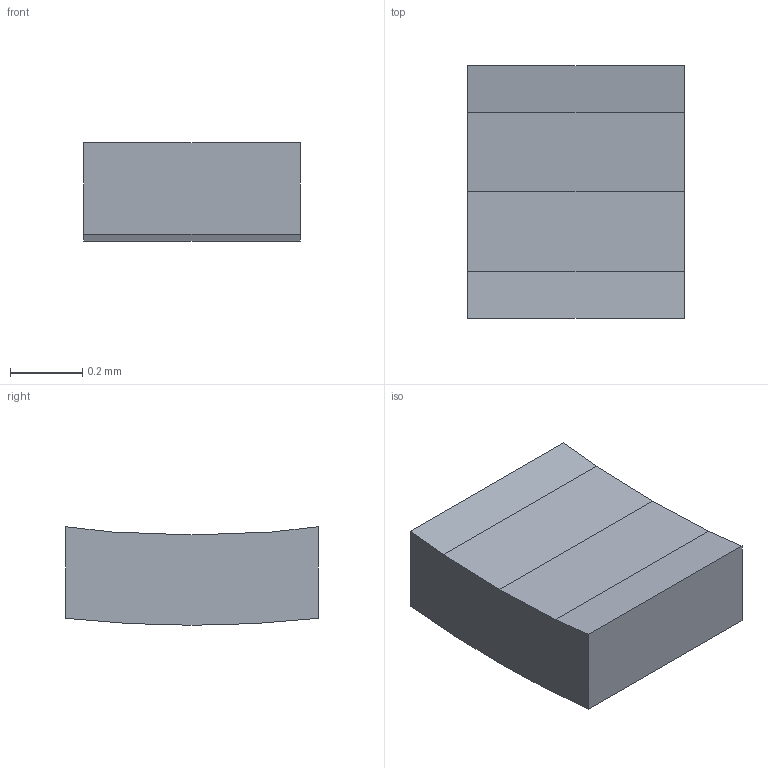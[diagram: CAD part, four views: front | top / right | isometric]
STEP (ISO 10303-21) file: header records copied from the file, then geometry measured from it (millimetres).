
FILE_DESCRIPTION(/* description */ (''),/* implementation_level */ '2;1');
FILE_NAME(/* name */ 'C27_R2_LED_Saddle_Pad_1.step',/* time_stamp */ '2026-09-10T17:49:22-07:00',/* author */ (''),/* organization */ (''),/* preprocessor_version */ 'ST-DEVELOPER v20.1',/* originating_system */ 'Autodesk Translation Framework v15.8.0.0',/* authorisation */ '');
FILE_SCHEMA (('AUTOMOTIVE_DESIGN { 1 0 10303 214 3 1 1 }'));
Length unit declared in the file: millimetre
Products named in the file (1): 2026-09-10-17-49-22-506
Bounding box: 0.6 x 0.7 x 0.27 mm (x, y, z)
Volume: 0.1 mm3; surface area: 1.5 mm2
Topology: 1 solids, 1 shells, 9 faces, 21 edges, 14 vertices
Faces by surface type: plane 8, cylinder 1
Entity records: 290 total; most frequent: CARTESIAN_POINT 45, DIRECTION 43, ORIENTED_EDGE 42, EDGE_CURVE 21, LINE 19, VECTOR 19, VERTEX_POINT 14, AXIS2_PLACEMENT_3D 12
